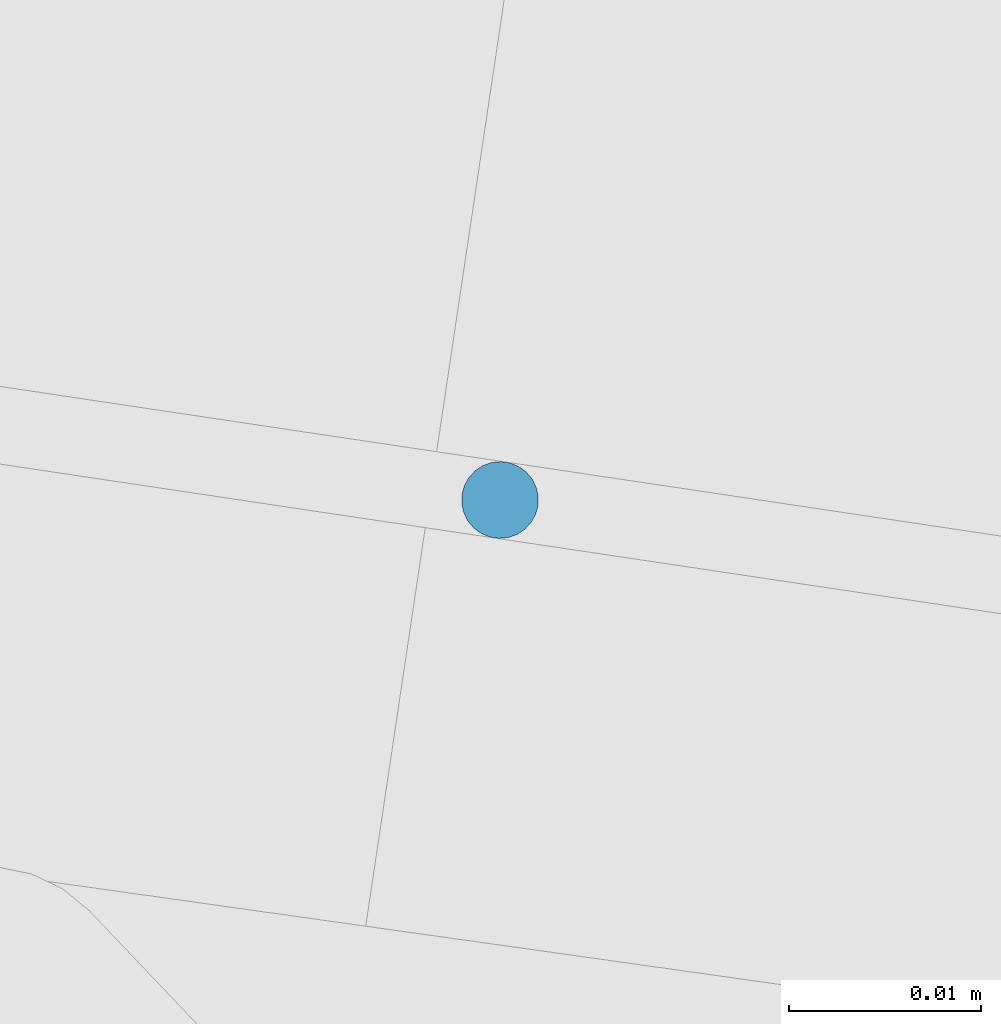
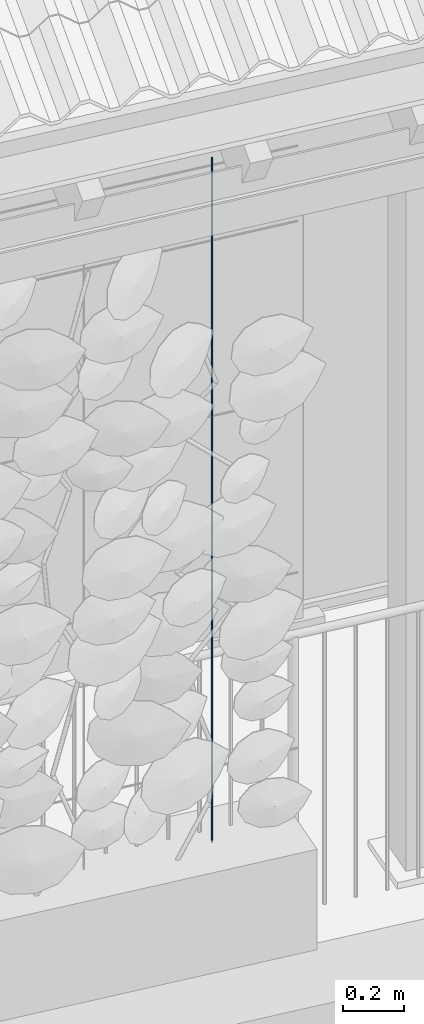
# One storey, part 62 of 131: 1 member, 1 element without a shape of its own.
"""IFC4 building model written with IfcOpenShell, lengths in metres."""

from ifc_helpers import new_model, si_unit, direction, frame, origin_with_axes, place, context, subcontext, project, spatial, circle, extrude, material, material_profile, profile_set, profile_usage, type_object, element, aggregate, save


model = new_model("IFC4")

# Units and contexts
model_context = context("Model", 3, precision=1e-05, world=origin_with_axes(), true_north=direction((0.0, 1.0)))
body_context = subcontext(model_context, "Body", "Model", "MODEL_VIEW")
ifc_project = project(units=[si_unit("AREAUNIT", "SQUARE_METRE"), si_unit("VOLUMEUNIT", "CUBIC_METRE"), si_unit("LENGTHUNIT", "METRE")], contexts=[model_context])

# Site, building, storey
site_placement = place(None, origin_with_axes())
site = spatial("IfcSite", under=ifc_project, at=site_placement, Name="Lares · Rua das Mercês · artigo 4771")
building_placement = place(site_placement, frame((15.0, 9.7, 14.65), z_axis=(0.0, 0.0, 1.0), x_axis=(0.989015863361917, -0.147809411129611, 0.0)))
building = spatial("IfcBuilding", under=site, at=building_placement, Name="Casa Sobreposta")
storey_placement = place(building_placement, origin_with_axes())
storey = spatial("IfcBuildingStorey", under=building, at=storey_placement, Name="00 · Habitação e estacionamento", Elevation=14.65)

# Assembly, member
assembly_placement = place(storey_placement, origin_with_axes())
assembly = element("IfcElementAssembly", 1, at=assembly_placement, inside=storey, Name="Fachada sul e pátio · estrutura e trepadeiras", ObjectType="LIVING_SHADE_TRELLIS", PredefinedType="USERDEFINED")
ifc_material = material(Name="Aço galvanizado / Stahl verzinkt", Category="steel")
ifc_material_profile = material_profile(ifc_material, circle(Radius=0.002))
ifc_profile_set = profile_set([ifc_material_profile], Name="D0.004")
ifc_profile_usage = profile_usage(ifc_profile_set)
member_type = type_object("IfcMemberType", Name="D0.004 / galvanized", PredefinedType="NOTDEFINED", material=ifc_profile_set)
member_placement = place(assembly_placement, frame((11.2, -1.61, 0.35), z_axis=(0.0, 0.0, 1.0), x_axis=(1.0, 0.0, 0.0)))
member = element("IfcMember", 2, at=member_placement, type_object=member_type, material=ifc_profile_usage, Name="Trepadeiras · fio vertical", context=body_context, shape_type="SweptSolid", body=[
    extrude(circle(Radius=0.002), origin_with_axes(), (0.0, 0.0, 1.0), 2.73),
])
aggregate(assembly, [member])

save(model, "model.ifc")
